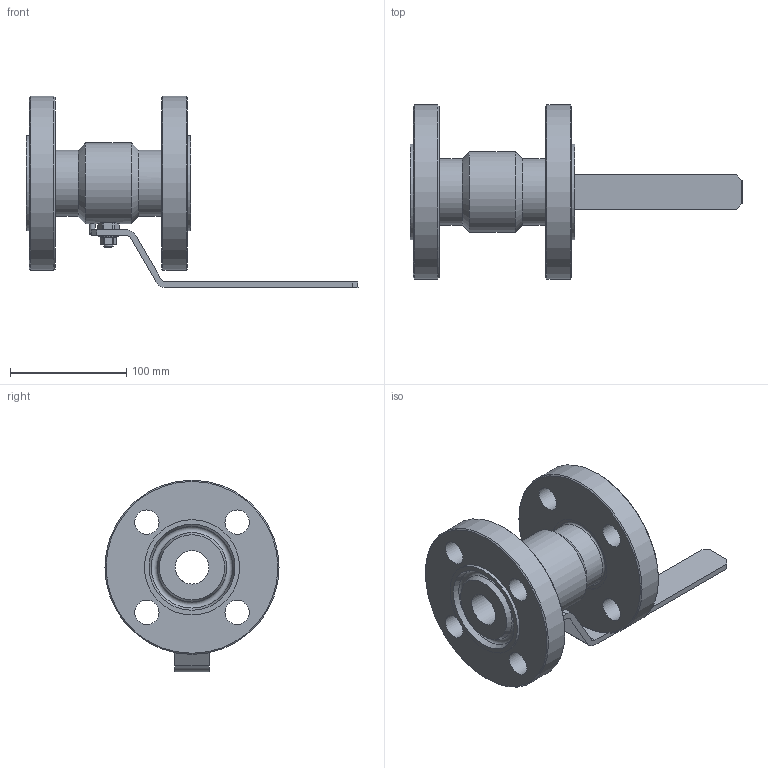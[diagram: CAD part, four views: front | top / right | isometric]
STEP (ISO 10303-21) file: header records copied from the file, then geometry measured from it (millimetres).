
FILE_DESCRIPTION(('STEP AP203'), '1');
FILE_NAME('ZARD 032.100.27.P.stp', '2013-12-06T06:01:40', ('User'), ('Computer'), 'ASCON STEP Converter 1.3', 'Kompas 3D', '');
FILE_SCHEMA(('CONFIG_CONTROL_DESIGN','SUPPORT_RESOURCE_SCHEMA'));
Length unit declared in the file: millimetre
Products named in the file (1): 24
Bounding box: 286 x 150 x 165 mm (x, y, z)
Volume: 939158.7 mm3; surface area: 151512.5 mm2
Topology: 1 solids, 3 shells, 169 faces, 388 edges, 243 vertices
Faces by surface type: plane 87, cylinder 51, cone 26, torus 5
Full cylindrical faces by diameter (mm): 5 x2, 8 x1, 10.7 x1, 10.917 x1, 12 x1, 12.1 x1, 19.8 x1, 20 x2, 21 x8, 29 x2, 48.4 x1, 57 x2, 69.5 x1, 82 x2, 150 x2
Entity records: 5528 total; most frequent: CARTESIAN_POINT 1470, DIRECTION 878, ORIENTED_EDGE 776, EDGE_CURVE 388, AXIS2_PLACEMENT_3D 340, VERTEX_POINT 243, EDGE_LOOP 209, LINE 198
